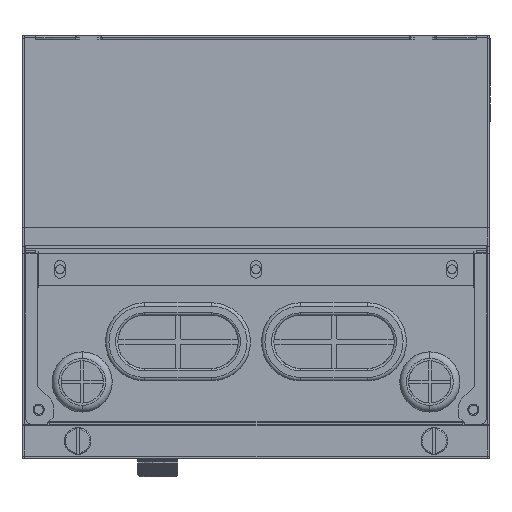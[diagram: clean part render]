
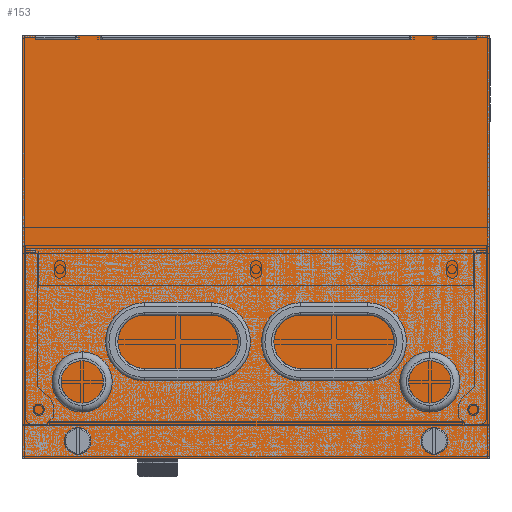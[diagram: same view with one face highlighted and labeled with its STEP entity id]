
A CAD part, left-side view. The second image highlights one B-rep face of the part: STEP entity #153.
In plain terms, the highlighted planar face has unit normal (-1, 0, 0).
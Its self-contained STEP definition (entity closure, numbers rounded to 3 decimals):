
#59=DIRECTION('',(0.,0.,1.));
#60=VECTOR('',#59,190.);
#61=CARTESIAN_POINT('',(-165.,-105.,-190.));
#62=LINE('',#61,#60);
#75=DIRECTION('',(0.,1.,0.));
#76=VECTOR('',#75,210.);
#77=CARTESIAN_POINT('',(-165.,-105.,-190.));
#78=LINE('',#77,#76);
#79=DIRECTION('',(0.,0.,1.));
#80=VECTOR('',#79,190.);
#81=CARTESIAN_POINT('',(-165.,105.,-190.));
#82=LINE('',#81,#80);
#99=DIRECTION('',(0.,1.,0.));
#100=VECTOR('',#99,210.);
#101=CARTESIAN_POINT('',(-165.,-105.,0.));
#102=LINE('',#101,#100);
#107=CARTESIAN_POINT('',(-165.,-105.,-190.));
#108=CARTESIAN_POINT('',(-165.,-105.,0.));
#109=VERTEX_POINT('',#107);
#110=VERTEX_POINT('',#108);
#115=CARTESIAN_POINT('',(-165.,105.,-190.));
#116=VERTEX_POINT('',#115);
#117=CARTESIAN_POINT('',(-165.,105.,0.));
#118=VERTEX_POINT('',#117);
#139=CARTESIAN_POINT('',(-165.,-105.,-190.));
#140=DIRECTION('',(-1.,0.,0.));
#141=DIRECTION('',(0.,0.,1.));
#142=AXIS2_PLACEMENT_3D('',#139,#140,#141);
#143=PLANE('',#142);
#144=ORIENTED_EDGE('',*,*,#128,.F.);
#146=ORIENTED_EDGE('',*,*,#145,.T.);
#148=ORIENTED_EDGE('',*,*,#147,.T.);
#150=ORIENTED_EDGE('',*,*,#149,.F.);
#151=EDGE_LOOP('',(#144,#146,#148,#150));
#152=FACE_OUTER_BOUND('',#151,.F.);
#128=EDGE_CURVE('',#109,#110,#62,.T.);
#145=EDGE_CURVE('',#109,#116,#78,.T.);
#147=EDGE_CURVE('',#116,#118,#82,.T.);
#149=EDGE_CURVE('',#110,#118,#102,.T.);
#153=ADVANCED_FACE('',(#152),#143,.T.);
